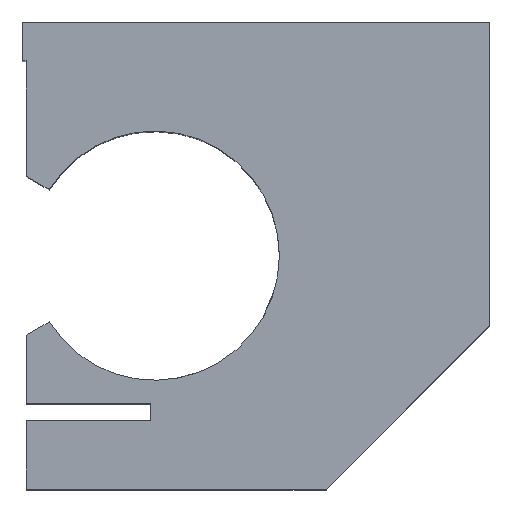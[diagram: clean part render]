
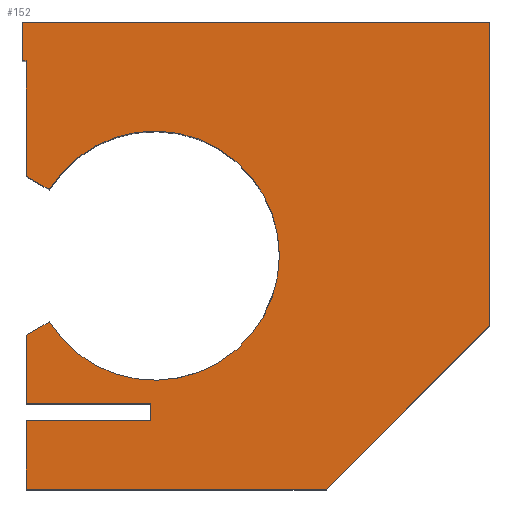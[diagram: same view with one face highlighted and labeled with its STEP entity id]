
A CAD part, top view. The second image highlights one B-rep face of the part: STEP entity #152.
In plain terms, the highlighted planar face has unit normal (0, 0, 1).
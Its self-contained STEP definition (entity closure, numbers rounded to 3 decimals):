
#1 = CARTESIAN_POINT ( 'NONE',  ( 9., -30., 27. ) ) ;
#9 = CARTESIAN_POINT ( 'NONE',  ( 30., 30., 27. ) ) ;
#12 = DIRECTION ( 'NONE',  ( 0., 0., 1. ) ) ;
#27 = CARTESIAN_POINT ( 'NONE',  ( -13.5, -19., 27. ) ) ;
#32 = ORIENTED_EDGE ( 'NONE', *, *, #984, .F. ) ;
#64 = EDGE_CURVE ( 'NONE', #1679, #1194, #739, .T. ) ;
#70 = CARTESIAN_POINT ( 'NONE',  ( 30., 30., 27. ) ) ;
#81 = CARTESIAN_POINT ( 'NONE',  ( 3., 0., 27. ) ) ;
#126 = CARTESIAN_POINT ( 'NONE',  ( 0., 0., 27. ) ) ;
#139 = LINE ( 'NONE', #672, #829 ) ;
#146 = VERTEX_POINT ( 'NONE', #480 ) ;
#152 = ADVANCED_FACE ( 'NONE', ( #1360 ), #423, .T. ) ;
#153 = LINE ( 'NONE', #9, #603 ) ;
#157 = CARTESIAN_POINT ( 'NONE',  ( -29.5, -30., 27. ) ) ;
#161 = VERTEX_POINT ( 'NONE', #556 ) ;
#169 = DIRECTION ( 'NONE',  ( -1., 0., 0. ) ) ;
#188 = VECTOR ( 'NONE', #903, 1000. ) ;
#199 = DIRECTION ( 'NONE',  ( -1., 0., 0. ) ) ;
#210 = CARTESIAN_POINT ( 'NONE',  ( -29.5, 25., 27. ) ) ;
#227 = CARTESIAN_POINT ( 'NONE',  ( -13.5, -21.15, 27. ) ) ;
#234 = EDGE_LOOP ( 'NONE', ( #654, #1363, #1656, #1440, #808, #597, #1699, #464, #718, #567, #1081, #32, #837, #770, #1627, #252 ) ) ;
#251 = VECTOR ( 'NONE', #388, 1000. ) ;
#252 = ORIENTED_EDGE ( 'NONE', *, *, #674, .F. ) ;
#255 = CARTESIAN_POINT ( 'NONE',  ( -29.5, 25., 27. ) ) ;
#261 = CARTESIAN_POINT ( 'NONE',  ( -29.5, 25., 27. ) ) ;
#304 = CARTESIAN_POINT ( 'NONE',  ( -29.5, -10.2, 27. ) ) ;
#316 = CIRCLE ( 'NONE', #452, 16. ) ;
#330 = VECTOR ( 'NONE', #1567, 1000. ) ;
#362 = VERTEX_POINT ( 'NONE', #81 ) ;
#364 = CARTESIAN_POINT ( 'NONE',  ( -29.5, 25., 27. ) ) ;
#367 = EDGE_CURVE ( 'NONE', #362, #568, #863, .T. ) ;
#388 = DIRECTION ( 'NONE',  ( 0.866, 0.5, 0. ) ) ;
#392 = EDGE_CURVE ( 'NONE', #953, #1419, #1549, .T. ) ;
#423 = PLANE ( 'NONE',  #805 ) ;
#452 = AXIS2_PLACEMENT_3D ( 'NONE', #902, #626, #1159 ) ;
#464 = ORIENTED_EDGE ( 'NONE', *, *, #684, .F. ) ;
#466 = CARTESIAN_POINT ( 'NONE',  ( -30., 25., 27. ) ) ;
#474 = DIRECTION ( 'NONE',  ( 0., 1., 0. ) ) ;
#480 = CARTESIAN_POINT ( 'NONE',  ( -13.5, -21.15, 27. ) ) ;
#484 = CARTESIAN_POINT ( 'NONE',  ( -30., 30., 27. ) ) ;
#489 = VECTOR ( 'NONE', #169, 1000. ) ;
#509 = CARTESIAN_POINT ( 'NONE',  ( -29.5, -19., 27. ) ) ;
#514 = LINE ( 'NONE', #227, #1142 ) ;
#543 = EDGE_CURVE ( 'NONE', #146, #1063, #514, .T. ) ;
#547 = EDGE_CURVE ( 'NONE', #568, #1679, #1445, .T. ) ;
#550 = VECTOR ( 'NONE', #936, 1000. ) ;
#552 = AXIS2_PLACEMENT_3D ( 'NONE', #1024, #1287, #631 ) ;
#556 = CARTESIAN_POINT ( 'NONE',  ( -13.5, -19., 27. ) ) ;
#561 = LINE ( 'NONE', #261, #550 ) ;
#567 = ORIENTED_EDGE ( 'NONE', *, *, #547, .F. ) ;
#568 = VERTEX_POINT ( 'NONE', #1585 ) ;
#597 = ORIENTED_EDGE ( 'NONE', *, *, #836, .T. ) ;
#600 = VECTOR ( 'NONE', #1560, 1000. ) ;
#603 = VECTOR ( 'NONE', #1207, 1000. ) ;
#626 = DIRECTION ( 'NONE',  ( 0., 0., 1. ) ) ;
#627 = EDGE_CURVE ( 'NONE', #729, #1710, #1196, .T. ) ;
#631 = DIRECTION ( 'NONE',  ( 1., 0., 0. ) ) ;
#650 = VERTEX_POINT ( 'NONE', #157 ) ;
#654 = ORIENTED_EDGE ( 'NONE', *, *, #543, .T. ) ;
#672 = CARTESIAN_POINT ( 'NONE',  ( -30., -30., 27. ) ) ;
#674 = EDGE_CURVE ( 'NONE', #146, #161, #694, .T. ) ;
#684 = EDGE_CURVE ( 'NONE', #1194, #1419, #561, .T. ) ;
#689 = LINE ( 'NONE', #1075, #489 ) ;
#694 = LINE ( 'NONE', #27, #979 ) ;
#718 = ORIENTED_EDGE ( 'NONE', *, *, #64, .F. ) ;
#723 = CARTESIAN_POINT ( 'NONE',  ( -26.555, -8.5, 27. ) ) ;
#729 = VERTEX_POINT ( 'NONE', #1 ) ;
#739 = LINE ( 'NONE', #210, #1620 ) ;
#753 = CARTESIAN_POINT ( 'NONE',  ( -30., 30., 27. ) ) ;
#760 = EDGE_CURVE ( 'NONE', #650, #729, #139, .T. ) ;
#761 = CARTESIAN_POINT ( 'NONE',  ( -26.555, 8.5, 27. ) ) ;
#770 = ORIENTED_EDGE ( 'NONE', *, *, #1074, .F. ) ;
#805 = AXIS2_PLACEMENT_3D ( 'NONE', #126, #12, #1330 ) ;
#808 = ORIENTED_EDGE ( 'NONE', *, *, #1195, .T. ) ;
#829 = VECTOR ( 'NONE', #1352, 1000. ) ;
#830 = DIRECTION ( 'NONE',  ( 0.707, 0.707, 0. ) ) ;
#836 = EDGE_CURVE ( 'NONE', #1311, #953, #1258, .T. ) ;
#837 = ORIENTED_EDGE ( 'NONE', *, *, #1118, .F. ) ;
#863 = CIRCLE ( 'NONE', #552, 16. ) ;
#894 = CARTESIAN_POINT ( 'NONE',  ( -29.5, -21.15, 27. ) ) ;
#899 = VERTEX_POINT ( 'NONE', #304 ) ;
#902 = CARTESIAN_POINT ( 'NONE',  ( -13., 0., 27. ) ) ;
#903 = DIRECTION ( 'NONE',  ( -0.866, 0.5, 0. ) ) ;
#907 = CARTESIAN_POINT ( 'NONE',  ( -30., -10.489, 27. ) ) ;
#930 = DIRECTION ( 'NONE',  ( -1., 0., 0. ) ) ;
#936 = DIRECTION ( 'NONE',  ( -1., 0., 0. ) ) ;
#953 = VERTEX_POINT ( 'NONE', #753 ) ;
#979 = VECTOR ( 'NONE', #1488, 1000. ) ;
#984 = EDGE_CURVE ( 'NONE', #1380, #362, #316, .T. ) ;
#1024 = CARTESIAN_POINT ( 'NONE',  ( -13., 0., 27. ) ) ;
#1050 = EDGE_CURVE ( 'NONE', #650, #1063, #1316, .T. ) ;
#1063 = VERTEX_POINT ( 'NONE', #894 ) ;
#1071 = VERTEX_POINT ( 'NONE', #509 ) ;
#1074 = EDGE_CURVE ( 'NONE', #1071, #899, #1155, .T. ) ;
#1075 = CARTESIAN_POINT ( 'NONE',  ( -13.5, -19., 27. ) ) ;
#1081 = ORIENTED_EDGE ( 'NONE', *, *, #367, .F. ) ;
#1118 = EDGE_CURVE ( 'NONE', #899, #1380, #1588, .T. ) ;
#1142 = VECTOR ( 'NONE', #930, 1000. ) ;
#1155 = LINE ( 'NONE', #364, #1412 ) ;
#1159 = DIRECTION ( 'NONE',  ( 1., 0., 0. ) ) ;
#1194 = VERTEX_POINT ( 'NONE', #255 ) ;
#1195 = EDGE_CURVE ( 'NONE', #1710, #1311, #153, .T. ) ;
#1196 = LINE ( 'NONE', #1565, #1420 ) ;
#1207 = DIRECTION ( 'NONE',  ( 0., 1., 0. ) ) ;
#1258 = LINE ( 'NONE', #1650, #1716 ) ;
#1287 = DIRECTION ( 'NONE',  ( 0., 0., 1. ) ) ;
#1297 = DIRECTION ( 'NONE',  ( 0., 1., 0. ) ) ;
#1311 = VERTEX_POINT ( 'NONE', #70 ) ;
#1316 = LINE ( 'NONE', #1712, #600 ) ;
#1330 = DIRECTION ( 'NONE',  ( 1., 0., 0. ) ) ;
#1348 = CARTESIAN_POINT ( 'NONE',  ( 30., -9., 27. ) ) ;
#1352 = DIRECTION ( 'NONE',  ( 1., 0., 0. ) ) ;
#1360 = FACE_OUTER_BOUND ( 'NONE', #234, .T. ) ;
#1363 = ORIENTED_EDGE ( 'NONE', *, *, #1050, .F. ) ;
#1380 = VERTEX_POINT ( 'NONE', #723 ) ;
#1412 = VECTOR ( 'NONE', #1297, 1000. ) ;
#1419 = VERTEX_POINT ( 'NONE', #466 ) ;
#1420 = VECTOR ( 'NONE', #830, 1000. ) ;
#1440 = ORIENTED_EDGE ( 'NONE', *, *, #627, .T. ) ;
#1445 = LINE ( 'NONE', #761, #188 ) ;
#1488 = DIRECTION ( 'NONE',  ( 0., 1., 0. ) ) ;
#1549 = LINE ( 'NONE', #484, #330 ) ;
#1560 = DIRECTION ( 'NONE',  ( 0., 1., 0. ) ) ;
#1565 = CARTESIAN_POINT ( 'NONE',  ( 19.5, -19.5, 27. ) ) ;
#1567 = DIRECTION ( 'NONE',  ( 0., -1., 0. ) ) ;
#1585 = CARTESIAN_POINT ( 'NONE',  ( -26.555, 8.5, 27. ) ) ;
#1588 = LINE ( 'NONE', #907, #251 ) ;
#1609 = CARTESIAN_POINT ( 'NONE',  ( -29.5, 10.2, 27. ) ) ;
#1620 = VECTOR ( 'NONE', #474, 1000. ) ;
#1627 = ORIENTED_EDGE ( 'NONE', *, *, #1663, .F. ) ;
#1650 = CARTESIAN_POINT ( 'NONE',  ( -30., 30., 27. ) ) ;
#1656 = ORIENTED_EDGE ( 'NONE', *, *, #760, .T. ) ;
#1663 = EDGE_CURVE ( 'NONE', #161, #1071, #689, .T. ) ;
#1679 = VERTEX_POINT ( 'NONE', #1609 ) ;
#1699 = ORIENTED_EDGE ( 'NONE', *, *, #392, .T. ) ;
#1710 = VERTEX_POINT ( 'NONE', #1348 ) ;
#1712 = CARTESIAN_POINT ( 'NONE',  ( -29.5, 25., 27. ) ) ;
#1716 = VECTOR ( 'NONE', #199, 1000. ) ;
